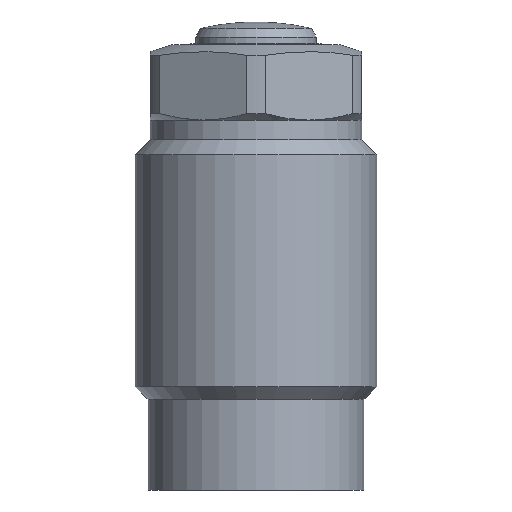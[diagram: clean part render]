
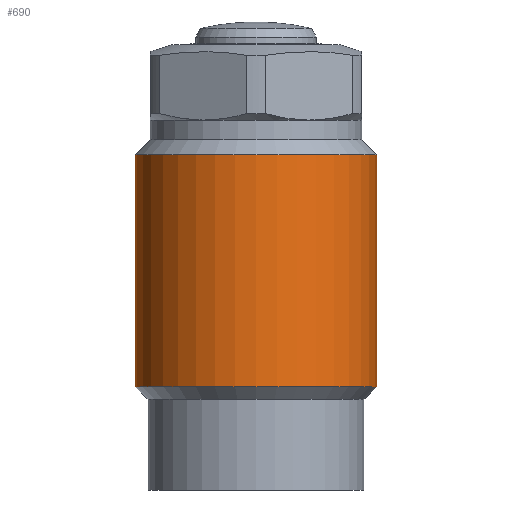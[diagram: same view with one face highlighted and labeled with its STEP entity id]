
A CAD part, front view. The second image highlights one B-rep face of the part: STEP entity #690.
In plain terms, the highlighted cylindrical face has radius 8 mm (diameter 16 mm), a partial arc.
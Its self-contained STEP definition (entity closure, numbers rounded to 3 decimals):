
#627=CARTESIAN_POINT('',(-8.,0.0,-22.65));
#628=VERTEX_POINT('',#627);
#636=CARTESIAN_POINT('',(8.,0.0,-22.65));
#637=VERTEX_POINT('',#636);
#644=CARTESIAN_POINT('',(0.0,0.0,-22.65));
#645=DIRECTION('',(0.0,0.0,1.0));
#646=DIRECTION('',(1.0,0.0,0.0));
#647=AXIS2_PLACEMENT_3D('',#644,#645,#646);
#648=CIRCLE('',#647,8.);
#649=EDGE_CURVE('no 1346',#628,#637,#648,.T.);
#659=CARTESIAN_POINT('',(-8.,0.0,-7.3));
#660=VERTEX_POINT('',#659);
#661=CARTESIAN_POINT('',(-8.,0.0,-22.65));
#662=DIRECTION('',(0.,-0.0,1.0));
#663=VECTOR('',#662,1.0);
#664=LINE('',#661,#663);
#665=EDGE_CURVE('no 1356',#628,#660,#664,.T.);
#666=ORIENTED_EDGE('',*,*,#665,.F.);
#667=ORIENTED_EDGE('',*,*,#649,.T.);
#668=CARTESIAN_POINT('',(8.,0.0,-7.3));
#669=VERTEX_POINT('',#668);
#670=CARTESIAN_POINT('',(8.,0.0,-22.65));
#671=DIRECTION('',(0.,0.0,1.0));
#672=VECTOR('',#671,1.0);
#673=LINE('',#670,#672);
#674=EDGE_CURVE('no 1364',#637,#669,#673,.T.);
#675=ORIENTED_EDGE('',*,*,#674,.T.);
#676=CARTESIAN_POINT('',(0.0,0.0,-7.3));
#677=DIRECTION('',(0.0,0.0,1.0));
#678=DIRECTION('',(1.0,0.0,0.0));
#679=AXIS2_PLACEMENT_3D('',#676,#677,#678);
#680=CIRCLE('',#679,8.);
#681=EDGE_CURVE('no 1368',#660,#669,#680,.T.);
#682=ORIENTED_EDGE('',*,*,#681,.F.);
#683=EDGE_LOOP('',(#666,#667,#675,#682));
#684=FACE_OUTER_BOUND('',#683,.T.);
#685=CARTESIAN_POINT('',(0.0,0.0,8.838));
#686=DIRECTION('',(0.0,0.0,1.0));
#687=DIRECTION('',(0.0,1.0,0.0));
#688=AXIS2_PLACEMENT_3D('',#685,#686,#687);
#689=CYLINDRICAL_SURFACE('',#688,8.);
#690=ADVANCED_FACE('no 1349',(#684),#689,.T.);
